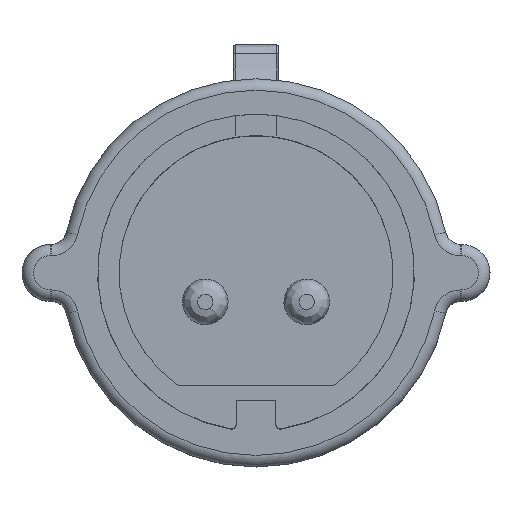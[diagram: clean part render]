
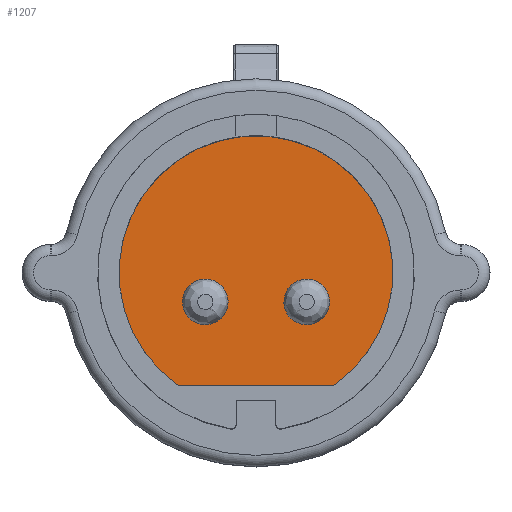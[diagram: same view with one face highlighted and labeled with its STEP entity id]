
A CAD part, top view. The second image highlights one B-rep face of the part: STEP entity #1207.
In plain terms, the highlighted planar face has unit normal (0, 0, 1).
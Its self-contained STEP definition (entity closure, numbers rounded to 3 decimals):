
#1065=CIRCLE('',#3602,18.);
#1207=ADVANCED_FACE('',(#1380),#1281,.F.);
#1281=PLANE('',#3603);
#1380=FACE_OUTER_BOUND('',#1536,.T.);
#1536=EDGE_LOOP('',(#2360,#2361));
#1673=LINE('',#6312,#1846);
#1846=VECTOR('',#4165,1.);
#2360=ORIENTED_EDGE('',*,*,#3170,.F.);
#2361=ORIENTED_EDGE('',*,*,#3171,.F.);
#2799=VERTEX_POINT('',#6313);
#2800=VERTEX_POINT('',#6314);
#3170=EDGE_CURVE('',#2799,#2800,#1673,.T.);
#3171=EDGE_CURVE('',#2800,#2799,#1065,.T.);
#3602=AXIS2_PLACEMENT_3D('',#6315,#4166,#4167);
#3603=AXIS2_PLACEMENT_3D('',#6316,#4168,#4169);
#4165=DIRECTION('',(-1.,0.,0.));
#4166=DIRECTION('',(0.,0.,-1.));
#4167=DIRECTION('',(-0.569,-0.822,0.));
#4168=DIRECTION('',(0.,0.,-1.));
#4169=DIRECTION('',(0.,-1.,0.));
#6312=CARTESIAN_POINT('',(0.,-14.8,11.));
#6313=CARTESIAN_POINT('',(10.245,-14.8,11.));
#6314=CARTESIAN_POINT('',(-10.245,-14.8,11.));
#6315=CARTESIAN_POINT('',(0.,0.,11.));
#6316=CARTESIAN_POINT('',(-47.182,-38.33,11.));
